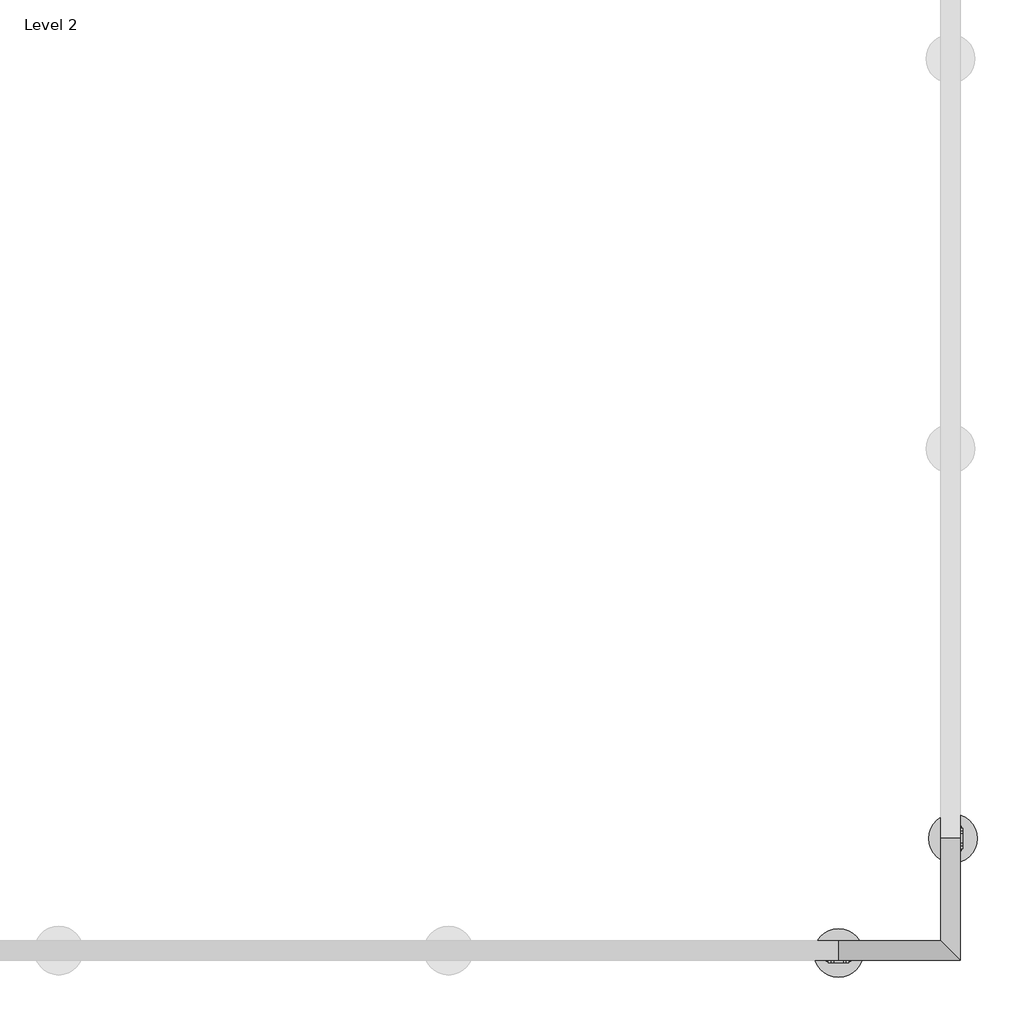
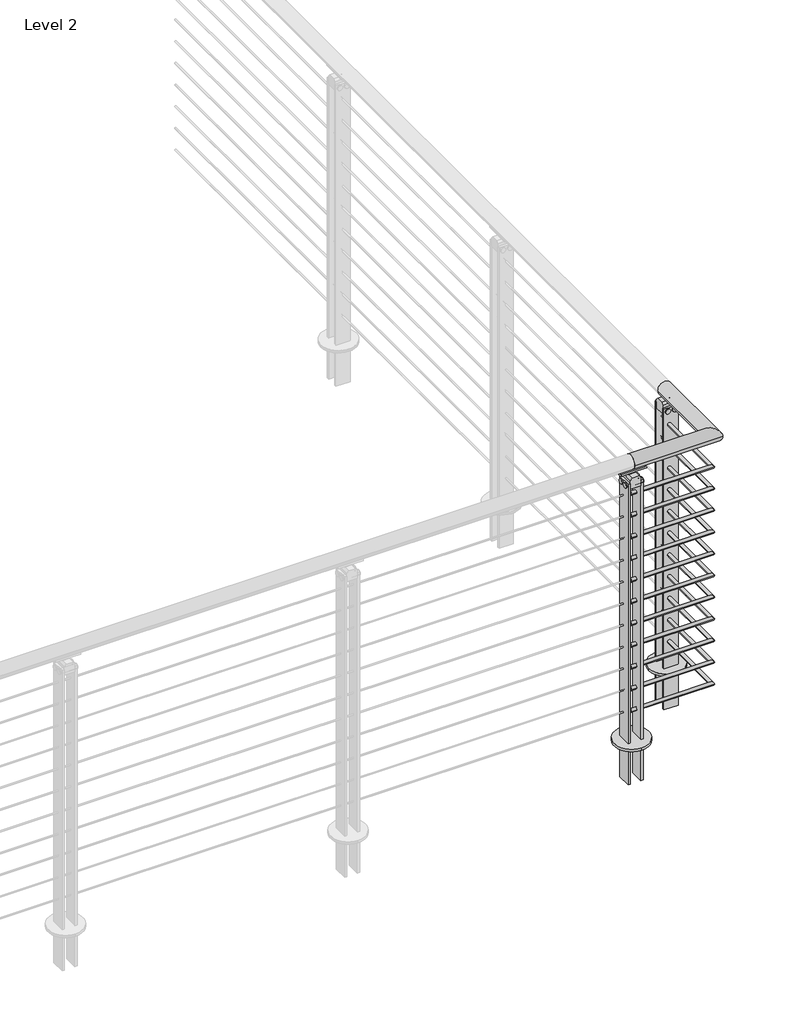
# One storey, part 30 of 31: 1 railing.
"""IFC4 building model written with IfcOpenShell, lengths in millimetres."""

from ifc_helpers import new_model, si_unit, point, frame, frame_2d, origin, place, context, project, spatial, polyline, circle_curve, ellipse_curve, trimmed, segment, composite_curve, outline, extrude, element, save
from ifc_brep_helpers import plane_surface, cylinder_surface, revolved_surface, advanced_brep

model = new_model("IFC4")

# Units and contexts
model_context = context("Model", 3, world=origin())
ifc_project = project(units=[si_unit("LENGTHUNIT", "METRE", prefix="MILLI")], contexts=[model_context])

# Site, building, storey
site = spatial("IfcSite", under=ifc_project)
building = spatial("IfcBuilding", under=site)
storey = spatial("IfcBuildingStorey", under=building, Name="Level 2", Elevation=3048.0)

# Railing
placement = place(None, origin())
element("IfcRailing", 1, ObjectType="VIVA-BLADE-Cable-Core Mount-Corner", at=placement, inside=storey, context=model_context, shape_type="SolidModel", body=[
    advanced_brep(
    [(70873.0310647, -52130.1426165, 4102.1), (70873.0310647, -52079.3426165, 4102.1), (71190.5310647, -52130.1426165, 4102.1), (71139.7310647, -52079.3426165, 4102.1), (71190.5310647, -51812.6426165, 4102.1), (71139.7310647, -51812.6426165, 4102.1)],
    [
        (0, 1, circle_curve(frame((70873.0310647, -52104.7426165, 4102.1), z_axis=(-1.0, 0.0, 0.0), x_axis=(0.0, 1.0, 0.0)), 25.4)),
        (1, 0, circle_curve(frame((70873.0310647, -52104.7426165, 4102.1), z_axis=(-1.0, 0.0, 0.0), x_axis=(0.0, 1.0, 0.0)), 25.4)),
        (0, 2),
        (2, 3, ellipse_curve(frame((71165.1310647, -52104.7426165, 4102.1), z_axis=(-0.7071067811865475, -0.7071067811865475, 0.0), x_axis=(-0.7071067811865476, 0.7071067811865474, 0.0)), 35.9210245, 25.4)),
        (3, 1),
        (3, 2, ellipse_curve(frame((71165.1310647, -52104.7426165, 4102.1), z_axis=(-0.7071067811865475, -0.7071067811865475, 0.0), x_axis=(-0.7071067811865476, 0.7071067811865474, 0.0)), 35.9210245, 25.4)),
        (4, 5, circle_curve(frame((71165.1310647, -51812.6426165, 4102.1), z_axis=(0.0, 1.0, 0.0), x_axis=(-1.0, 0.0, 0.0)), 25.4)),
        (5, 4, circle_curve(frame((71165.1310647, -51812.6426165, 4102.1), z_axis=(0.0, 1.0, 0.0), x_axis=(-1.0, 0.0, 0.0)), 25.4)),
        (2, 4),
        (5, 3),
    ],
    [
        plane_surface(frame((70873.0310647, -52104.7426165, 4127.5), z_axis=(-1.0, 0.0, 0.0), x_axis=(0.0, 1.0, 0.0))),
        cylinder_surface(frame((70873.0310647, -52104.7426165, 4102.1), z_axis=(-1.0, 0.0, 0.0), x_axis=(0.0, 1.0, 0.0)), 25.4),
        plane_surface(frame((71165.1310647, -51812.6426165, 4127.5), z_axis=(0.0, 1.0, 0.0), x_axis=(0.0, 0.0, 1.0))),
        cylinder_surface(frame((71165.1310647, -52104.7426165, 4102.1), z_axis=(0.0, -1.0, 0.0), x_axis=(-1.0, 0.0, 0.0)), 25.4),
    ],
    [
        (0, [[1, 2]]),
        (1, [[-1, 3, 4, 5]]),
        (1, [[-2, -5, 6, -3]]),
        (2, [[7, 8]]),
        (3, [[-4, 9, -8, 10]]),
        (3, [[-6, -10, -7, -9]]),
    ],
),
    advanced_brep(
    [(70873.0310647, -52098.3926165, 3981.45), (70873.0310647, -52111.0926165, 3981.45), (71158.7810647, -52098.3926165, 3981.45), (71171.4810647, -52111.0926165, 3981.45), (71158.7810647, -51812.6426165, 3981.45), (71171.4810647, -51812.6426165, 3981.45)],
    [
        (0, 1, circle_curve(frame((70873.0310647, -52104.7426165, 3981.45), z_axis=(-1.0, 0.0, 0.0), x_axis=(0.0, -1.0, 0.0)), 6.35)),
        (1, 0, circle_curve(frame((70873.0310647, -52104.7426165, 3981.45), z_axis=(-1.0, 0.0, 0.0), x_axis=(0.0, -1.0, 0.0)), 6.35)),
        (0, 2),
        (2, 3, ellipse_curve(frame((71165.1310647, -52104.7426165, 3981.45), z_axis=(-0.7071067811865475, -0.7071067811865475, 0.0), x_axis=(-0.7071067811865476, 0.7071067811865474, 0.0)), 8.9802561, 6.35)),
        (3, 1),
        (3, 2, ellipse_curve(frame((71165.1310647, -52104.7426165, 3981.45), z_axis=(-0.7071067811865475, -0.7071067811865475, 0.0), x_axis=(-0.7071067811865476, 0.7071067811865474, 0.0)), 8.9802561, 6.35)),
        (4, 5, circle_curve(frame((71165.1310647, -51812.6426165, 3981.45), z_axis=(0.0, 1.0, 0.0), x_axis=(1.0, 0.0, 0.0)), 6.35)),
        (5, 4, circle_curve(frame((71165.1310647, -51812.6426165, 3981.45), z_axis=(0.0, 1.0, 0.0), x_axis=(1.0, 0.0, 0.0)), 6.35)),
        (2, 4),
        (5, 3),
    ],
    [
        plane_surface(frame((70873.0310647, -52104.7426165, 3987.8), z_axis=(-1.0, 0.0, 0.0), x_axis=(0.0, 1.0, 0.0))),
        cylinder_surface(frame((70873.0310647, -52104.7426165, 3981.45), z_axis=(-1.0, 0.0, 0.0), x_axis=(0.0, -1.0, 0.0)), 6.35),
        plane_surface(frame((71165.1310647, -51812.6426165, 3987.8), z_axis=(0.0, 1.0, 0.0), x_axis=(0.0, 0.0, 1.0))),
        cylinder_surface(frame((71165.1310647, -52104.7426165, 3981.45), z_axis=(0.0, -1.0, 0.0), x_axis=(1.0, 0.0, 0.0)), 6.35),
    ],
    [
        (0, [[1, 2]]),
        (1, [[-1, 3, 4, 5]]),
        (1, [[-2, -5, 6, -3]]),
        (2, [[7, 8]]),
        (3, [[-4, 9, -8, 10]]),
        (3, [[-6, -10, -7, -9]]),
    ],
),
    advanced_brep(
    [(70873.0310647, -52098.3926165, 3898.9), (70873.0310647, -52111.0926165, 3898.9), (71158.7810647, -52098.3926165, 3898.9), (71171.4810647, -52111.0926165, 3898.9), (71158.7810647, -51812.6426165, 3898.9), (71171.4810647, -51812.6426165, 3898.9)],
    [
        (0, 1, circle_curve(frame((70873.0310647, -52104.7426165, 3898.9), z_axis=(-1.0, 0.0, 0.0), x_axis=(0.0, -1.0, 0.0)), 6.35)),
        (1, 0, circle_curve(frame((70873.0310647, -52104.7426165, 3898.9), z_axis=(-1.0, 0.0, 0.0), x_axis=(0.0, -1.0, 0.0)), 6.35)),
        (0, 2),
        (2, 3, ellipse_curve(frame((71165.1310647, -52104.7426165, 3898.9), z_axis=(-0.7071067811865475, -0.7071067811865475, 0.0), x_axis=(-0.7071067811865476, 0.7071067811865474, 0.0)), 8.9802561, 6.35)),
        (3, 1),
        (3, 2, ellipse_curve(frame((71165.1310647, -52104.7426165, 3898.9), z_axis=(-0.7071067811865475, -0.7071067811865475, 0.0), x_axis=(-0.7071067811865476, 0.7071067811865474, 0.0)), 8.9802561, 6.35)),
        (4, 5, circle_curve(frame((71165.1310647, -51812.6426165, 3898.9), z_axis=(0.0, 1.0, 0.0), x_axis=(1.0, 0.0, 0.0)), 6.35)),
        (5, 4, circle_curve(frame((71165.1310647, -51812.6426165, 3898.9), z_axis=(0.0, 1.0, 0.0), x_axis=(1.0, 0.0, 0.0)), 6.35)),
        (2, 4),
        (5, 3),
    ],
    [
        plane_surface(frame((70873.0310647, -52104.7426165, 3905.25), z_axis=(-1.0, 0.0, 0.0), x_axis=(0.0, 1.0, 0.0))),
        cylinder_surface(frame((70873.0310647, -52104.7426165, 3898.9), z_axis=(-1.0, 0.0, 0.0), x_axis=(0.0, -1.0, 0.0)), 6.35),
        plane_surface(frame((71165.1310647, -51812.6426165, 3905.25), z_axis=(0.0, 1.0, 0.0), x_axis=(0.0, 0.0, 1.0))),
        cylinder_surface(frame((71165.1310647, -52104.7426165, 3898.9), z_axis=(0.0, -1.0, 0.0), x_axis=(1.0, 0.0, 0.0)), 6.35),
    ],
    [
        (0, [[1, 2]]),
        (1, [[-1, 3, 4, 5]]),
        (1, [[-2, -5, 6, -3]]),
        (2, [[7, 8]]),
        (3, [[-4, 9, -8, 10]]),
        (3, [[-6, -10, -7, -9]]),
    ],
),
    advanced_brep(
    [(70873.0310647, -52098.3926165, 3816.35), (70873.0310647, -52111.0926165, 3816.35), (71158.7810647, -52098.3926165, 3816.35), (71171.4810647, -52111.0926165, 3816.35), (71158.7810647, -51812.6426165, 3816.35), (71171.4810647, -51812.6426165, 3816.35)],
    [
        (0, 1, circle_curve(frame((70873.0310647, -52104.7426165, 3816.35), z_axis=(-1.0, 0.0, 0.0), x_axis=(0.0, -1.0, 0.0)), 6.35)),
        (1, 0, circle_curve(frame((70873.0310647, -52104.7426165, 3816.35), z_axis=(-1.0, 0.0, 0.0), x_axis=(0.0, -1.0, 0.0)), 6.35)),
        (0, 2),
        (2, 3, ellipse_curve(frame((71165.1310647, -52104.7426165, 3816.35), z_axis=(-0.7071067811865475, -0.7071067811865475, 0.0), x_axis=(-0.7071067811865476, 0.7071067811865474, 0.0)), 8.9802561, 6.35)),
        (3, 1),
        (3, 2, ellipse_curve(frame((71165.1310647, -52104.7426165, 3816.35), z_axis=(-0.7071067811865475, -0.7071067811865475, 0.0), x_axis=(-0.7071067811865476, 0.7071067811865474, 0.0)), 8.9802561, 6.35)),
        (4, 5, circle_curve(frame((71165.1310647, -51812.6426165, 3816.35), z_axis=(0.0, 1.0, 0.0), x_axis=(1.0, 0.0, 0.0)), 6.35)),
        (5, 4, circle_curve(frame((71165.1310647, -51812.6426165, 3816.35), z_axis=(0.0, 1.0, 0.0), x_axis=(1.0, 0.0, 0.0)), 6.35)),
        (2, 4),
        (5, 3),
    ],
    [
        plane_surface(frame((70873.0310647, -52104.7426165, 3822.7), z_axis=(-1.0, 0.0, 0.0), x_axis=(0.0, 1.0, 0.0))),
        cylinder_surface(frame((70873.0310647, -52104.7426165, 3816.35), z_axis=(-1.0, 0.0, 0.0), x_axis=(0.0, -1.0, 0.0)), 6.35),
        plane_surface(frame((71165.1310647, -51812.6426165, 3822.7), z_axis=(0.0, 1.0, 0.0), x_axis=(0.0, 0.0, 1.0))),
        cylinder_surface(frame((71165.1310647, -52104.7426165, 3816.35), z_axis=(0.0, -1.0, 0.0), x_axis=(1.0, 0.0, 0.0)), 6.35),
    ],
    [
        (0, [[1, 2]]),
        (1, [[-1, 3, 4, 5]]),
        (1, [[-2, -5, 6, -3]]),
        (2, [[7, 8]]),
        (3, [[-4, 9, -8, 10]]),
        (3, [[-6, -10, -7, -9]]),
    ],
),
    advanced_brep(
    [(70873.0310647, -52098.3926165, 3733.8), (70873.0310647, -52111.0926165, 3733.8), (71158.7810647, -52098.3926165, 3733.8), (71171.4810647, -52111.0926165, 3733.8), (71158.7810647, -51812.6426165, 3733.8), (71171.4810647, -51812.6426165, 3733.8)],
    [
        (0, 1, circle_curve(frame((70873.0310647, -52104.7426165, 3733.8), z_axis=(-1.0, 0.0, 0.0), x_axis=(0.0, -1.0, 0.0)), 6.35)),
        (1, 0, circle_curve(frame((70873.0310647, -52104.7426165, 3733.8), z_axis=(-1.0, 0.0, 0.0), x_axis=(0.0, -1.0, 0.0)), 6.35)),
        (0, 2),
        (2, 3, ellipse_curve(frame((71165.1310647, -52104.7426165, 3733.8), z_axis=(-0.7071067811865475, -0.7071067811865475, 0.0), x_axis=(-0.7071067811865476, 0.7071067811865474, 0.0)), 8.9802561, 6.35)),
        (3, 1),
        (3, 2, ellipse_curve(frame((71165.1310647, -52104.7426165, 3733.8), z_axis=(-0.7071067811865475, -0.7071067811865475, 0.0), x_axis=(-0.7071067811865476, 0.7071067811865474, 0.0)), 8.9802561, 6.35)),
        (4, 5, circle_curve(frame((71165.1310647, -51812.6426165, 3733.8), z_axis=(0.0, 1.0, 0.0), x_axis=(1.0, 0.0, 0.0)), 6.35)),
        (5, 4, circle_curve(frame((71165.1310647, -51812.6426165, 3733.8), z_axis=(0.0, 1.0, 0.0), x_axis=(1.0, 0.0, 0.0)), 6.35)),
        (2, 4),
        (5, 3),
    ],
    [
        plane_surface(frame((70873.0310647, -52104.7426165, 3740.15), z_axis=(-1.0, 0.0, 0.0), x_axis=(0.0, 1.0, 0.0))),
        cylinder_surface(frame((70873.0310647, -52104.7426165, 3733.8), z_axis=(-1.0, 0.0, 0.0), x_axis=(0.0, -1.0, 0.0)), 6.35),
        plane_surface(frame((71165.1310647, -51812.6426165, 3740.15), z_axis=(0.0, 1.0, 0.0), x_axis=(0.0, 0.0, 1.0))),
        cylinder_surface(frame((71165.1310647, -52104.7426165, 3733.8), z_axis=(0.0, -1.0, 0.0), x_axis=(1.0, 0.0, 0.0)), 6.35),
    ],
    [
        (0, [[1, 2]]),
        (1, [[-1, 3, 4, 5]]),
        (1, [[-2, -5, 6, -3]]),
        (2, [[7, 8]]),
        (3, [[-4, 9, -8, 10]]),
        (3, [[-6, -10, -7, -9]]),
    ],
),
    advanced_brep(
    [(70873.0310647, -52098.3926165, 3651.25), (70873.0310647, -52111.0926165, 3651.25), (71158.7810647, -52098.3926165, 3651.25), (71171.4810647, -52111.0926165, 3651.25), (71158.7810647, -51812.6426165, 3651.25), (71171.4810647, -51812.6426165, 3651.25)],
    [
        (0, 1, circle_curve(frame((70873.0310647, -52104.7426165, 3651.25), z_axis=(-1.0, 0.0, 0.0), x_axis=(0.0, -1.0, 0.0)), 6.35)),
        (1, 0, circle_curve(frame((70873.0310647, -52104.7426165, 3651.25), z_axis=(-1.0, 0.0, 0.0), x_axis=(0.0, -1.0, 0.0)), 6.35)),
        (0, 2),
        (2, 3, ellipse_curve(frame((71165.1310647, -52104.7426165, 3651.25), z_axis=(-0.7071067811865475, -0.7071067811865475, 0.0), x_axis=(-0.7071067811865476, 0.7071067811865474, 0.0)), 8.9802561, 6.35)),
        (3, 1),
        (3, 2, ellipse_curve(frame((71165.1310647, -52104.7426165, 3651.25), z_axis=(-0.7071067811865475, -0.7071067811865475, 0.0), x_axis=(-0.7071067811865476, 0.7071067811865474, 0.0)), 8.9802561, 6.35)),
        (4, 5, circle_curve(frame((71165.1310647, -51812.6426165, 3651.25), z_axis=(0.0, 1.0, 0.0), x_axis=(1.0, 0.0, 0.0)), 6.35)),
        (5, 4, circle_curve(frame((71165.1310647, -51812.6426165, 3651.25), z_axis=(0.0, 1.0, 0.0), x_axis=(1.0, 0.0, 0.0)), 6.35)),
        (2, 4),
        (5, 3),
    ],
    [
        plane_surface(frame((70873.0310647, -52104.7426165, 3657.6), z_axis=(-1.0, 0.0, 0.0), x_axis=(0.0, 1.0, 0.0))),
        cylinder_surface(frame((70873.0310647, -52104.7426165, 3651.25), z_axis=(-1.0, 0.0, 0.0), x_axis=(0.0, -1.0, 0.0)), 6.35),
        plane_surface(frame((71165.1310647, -51812.6426165, 3657.6), z_axis=(0.0, 1.0, 0.0), x_axis=(0.0, 0.0, 1.0))),
        cylinder_surface(frame((71165.1310647, -52104.7426165, 3651.25), z_axis=(0.0, -1.0, 0.0), x_axis=(1.0, 0.0, 0.0)), 6.35),
    ],
    [
        (0, [[1, 2]]),
        (1, [[-1, 3, 4, 5]]),
        (1, [[-2, -5, 6, -3]]),
        (2, [[7, 8]]),
        (3, [[-4, 9, -8, 10]]),
        (3, [[-6, -10, -7, -9]]),
    ],
),
    advanced_brep(
    [(70873.0310647, -52098.3926165, 3568.7), (70873.0310647, -52111.0926165, 3568.7), (71158.7810647, -52098.3926165, 3568.7), (71171.4810647, -52111.0926165, 3568.7), (71158.7810647, -51812.6426165, 3568.7), (71171.4810647, -51812.6426165, 3568.7)],
    [
        (0, 1, circle_curve(frame((70873.0310647, -52104.7426165, 3568.7), z_axis=(-1.0, 0.0, 0.0), x_axis=(0.0, -1.0, 0.0)), 6.35)),
        (1, 0, circle_curve(frame((70873.0310647, -52104.7426165, 3568.7), z_axis=(-1.0, 0.0, 0.0), x_axis=(0.0, -1.0, 0.0)), 6.35)),
        (0, 2),
        (2, 3, ellipse_curve(frame((71165.1310647, -52104.7426165, 3568.7), z_axis=(-0.7071067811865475, -0.7071067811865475, 0.0), x_axis=(-0.7071067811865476, 0.7071067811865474, 0.0)), 8.9802561, 6.35)),
        (3, 1),
        (3, 2, ellipse_curve(frame((71165.1310647, -52104.7426165, 3568.7), z_axis=(-0.7071067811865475, -0.7071067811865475, 0.0), x_axis=(-0.7071067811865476, 0.7071067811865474, 0.0)), 8.9802561, 6.35)),
        (4, 5, circle_curve(frame((71165.1310647, -51812.6426165, 3568.7), z_axis=(0.0, 1.0, 0.0), x_axis=(1.0, 0.0, 0.0)), 6.35)),
        (5, 4, circle_curve(frame((71165.1310647, -51812.6426165, 3568.7), z_axis=(0.0, 1.0, 0.0), x_axis=(1.0, 0.0, 0.0)), 6.35)),
        (2, 4),
        (5, 3),
    ],
    [
        plane_surface(frame((70873.0310647, -52104.7426165, 3575.05), z_axis=(-1.0, 0.0, 0.0), x_axis=(0.0, 1.0, 0.0))),
        cylinder_surface(frame((70873.0310647, -52104.7426165, 3568.7), z_axis=(-1.0, 0.0, 0.0), x_axis=(0.0, -1.0, 0.0)), 6.35),
        plane_surface(frame((71165.1310647, -51812.6426165, 3575.05), z_axis=(0.0, 1.0, 0.0), x_axis=(0.0, 0.0, 1.0))),
        cylinder_surface(frame((71165.1310647, -52104.7426165, 3568.7), z_axis=(0.0, -1.0, 0.0), x_axis=(1.0, 0.0, 0.0)), 6.35),
    ],
    [
        (0, [[1, 2]]),
        (1, [[-1, 3, 4, 5]]),
        (1, [[-2, -5, 6, -3]]),
        (2, [[7, 8]]),
        (3, [[-4, 9, -8, 10]]),
        (3, [[-6, -10, -7, -9]]),
    ],
),
    advanced_brep(
    [(70873.0310647, -52098.3926165, 3486.15), (70873.0310647, -52111.0926165, 3486.15), (71158.7810647, -52098.3926165, 3486.15), (71171.4810647, -52111.0926165, 3486.15), (71158.7810647, -51812.6426165, 3486.15), (71171.4810647, -51812.6426165, 3486.15)],
    [
        (0, 1, circle_curve(frame((70873.0310647, -52104.7426165, 3486.15), z_axis=(-1.0, 0.0, 0.0), x_axis=(0.0, -1.0, 0.0)), 6.35)),
        (1, 0, circle_curve(frame((70873.0310647, -52104.7426165, 3486.15), z_axis=(-1.0, 0.0, 0.0), x_axis=(0.0, -1.0, 0.0)), 6.35)),
        (0, 2),
        (2, 3, ellipse_curve(frame((71165.1310647, -52104.7426165, 3486.15), z_axis=(-0.7071067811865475, -0.7071067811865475, 0.0), x_axis=(-0.7071067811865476, 0.7071067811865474, 0.0)), 8.9802561, 6.35)),
        (3, 1),
        (3, 2, ellipse_curve(frame((71165.1310647, -52104.7426165, 3486.15), z_axis=(-0.7071067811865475, -0.7071067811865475, 0.0), x_axis=(-0.7071067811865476, 0.7071067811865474, 0.0)), 8.9802561, 6.35)),
        (4, 5, circle_curve(frame((71165.1310647, -51812.6426165, 3486.15), z_axis=(0.0, 1.0, 0.0), x_axis=(1.0, 0.0, 0.0)), 6.35)),
        (5, 4, circle_curve(frame((71165.1310647, -51812.6426165, 3486.15), z_axis=(0.0, 1.0, 0.0), x_axis=(1.0, 0.0, 0.0)), 6.35)),
        (2, 4),
        (5, 3),
    ],
    [
        plane_surface(frame((70873.0310647, -52104.7426165, 3492.5), z_axis=(-1.0, 0.0, 0.0), x_axis=(0.0, 1.0, 0.0))),
        cylinder_surface(frame((70873.0310647, -52104.7426165, 3486.15), z_axis=(-1.0, 0.0, 0.0), x_axis=(0.0, -1.0, 0.0)), 6.35),
        plane_surface(frame((71165.1310647, -51812.6426165, 3492.5), z_axis=(0.0, 1.0, 0.0), x_axis=(0.0, 0.0, 1.0))),
        cylinder_surface(frame((71165.1310647, -52104.7426165, 3486.15), z_axis=(0.0, -1.0, 0.0), x_axis=(1.0, 0.0, 0.0)), 6.35),
    ],
    [
        (0, [[1, 2]]),
        (1, [[-1, 3, 4, 5]]),
        (1, [[-2, -5, 6, -3]]),
        (2, [[7, 8]]),
        (3, [[-4, 9, -8, 10]]),
        (3, [[-6, -10, -7, -9]]),
    ],
),
    advanced_brep(
    [(70873.0310647, -52098.3926165, 3403.6), (70873.0310647, -52111.0926165, 3403.6), (71158.7810647, -52098.3926165, 3403.6), (71171.4810647, -52111.0926165, 3403.6), (71158.7810647, -51812.6426165, 3403.6), (71171.4810647, -51812.6426165, 3403.6)],
    [
        (0, 1, circle_curve(frame((70873.0310647, -52104.7426165, 3403.6), z_axis=(-1.0, 0.0, 0.0), x_axis=(0.0, -1.0, 0.0)), 6.35)),
        (1, 0, circle_curve(frame((70873.0310647, -52104.7426165, 3403.6), z_axis=(-1.0, 0.0, 0.0), x_axis=(0.0, -1.0, 0.0)), 6.35)),
        (0, 2),
        (2, 3, ellipse_curve(frame((71165.1310647, -52104.7426165, 3403.6), z_axis=(-0.7071067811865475, -0.7071067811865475, 0.0), x_axis=(-0.7071067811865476, 0.7071067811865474, 0.0)), 8.9802561, 6.35)),
        (3, 1),
        (3, 2, ellipse_curve(frame((71165.1310647, -52104.7426165, 3403.6), z_axis=(-0.7071067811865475, -0.7071067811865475, 0.0), x_axis=(-0.7071067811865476, 0.7071067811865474, 0.0)), 8.9802561, 6.35)),
        (4, 5, circle_curve(frame((71165.1310647, -51812.6426165, 3403.6), z_axis=(0.0, 1.0, 0.0), x_axis=(1.0, 0.0, 0.0)), 6.35)),
        (5, 4, circle_curve(frame((71165.1310647, -51812.6426165, 3403.6), z_axis=(0.0, 1.0, 0.0), x_axis=(1.0, 0.0, 0.0)), 6.35)),
        (2, 4),
        (5, 3),
    ],
    [
        plane_surface(frame((70873.0310647, -52104.7426165, 3409.95), z_axis=(-1.0, 0.0, 0.0), x_axis=(0.0, 1.0, 0.0))),
        cylinder_surface(frame((70873.0310647, -52104.7426165, 3403.6), z_axis=(-1.0, 0.0, 0.0), x_axis=(0.0, -1.0, 0.0)), 6.35),
        plane_surface(frame((71165.1310647, -51812.6426165, 3409.95), z_axis=(0.0, 1.0, 0.0), x_axis=(0.0, 0.0, 1.0))),
        cylinder_surface(frame((71165.1310647, -52104.7426165, 3403.6), z_axis=(0.0, -1.0, 0.0), x_axis=(1.0, 0.0, 0.0)), 6.35),
    ],
    [
        (0, [[1, 2]]),
        (1, [[-1, 3, 4, 5]]),
        (1, [[-2, -5, 6, -3]]),
        (2, [[7, 8]]),
        (3, [[-4, 9, -8, 10]]),
        (3, [[-6, -10, -7, -9]]),
    ],
),
    advanced_brep(
    [(70873.0310647, -52098.3926165, 3321.05), (70873.0310647, -52111.0926165, 3321.05), (71158.7810647, -52098.3926165, 3321.05), (71171.4810647, -52111.0926165, 3321.05), (71158.7810647, -51812.6426165, 3321.05), (71171.4810647, -51812.6426165, 3321.05)],
    [
        (0, 1, circle_curve(frame((70873.0310647, -52104.7426165, 3321.05), z_axis=(-1.0, 0.0, 0.0), x_axis=(0.0, -1.0, 0.0)), 6.35)),
        (1, 0, circle_curve(frame((70873.0310647, -52104.7426165, 3321.05), z_axis=(-1.0, 0.0, 0.0), x_axis=(0.0, -1.0, 0.0)), 6.35)),
        (0, 2),
        (2, 3, ellipse_curve(frame((71165.1310647, -52104.7426165, 3321.05), z_axis=(-0.7071067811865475, -0.7071067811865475, 0.0), x_axis=(-0.7071067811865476, 0.7071067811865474, 0.0)), 8.9802561, 6.35)),
        (3, 1),
        (3, 2, ellipse_curve(frame((71165.1310647, -52104.7426165, 3321.05), z_axis=(-0.7071067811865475, -0.7071067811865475, 0.0), x_axis=(-0.7071067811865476, 0.7071067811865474, 0.0)), 8.9802561, 6.35)),
        (4, 5, circle_curve(frame((71165.1310647, -51812.6426165, 3321.05), z_axis=(0.0, 1.0, 0.0), x_axis=(1.0, 0.0, 0.0)), 6.35)),
        (5, 4, circle_curve(frame((71165.1310647, -51812.6426165, 3321.05), z_axis=(0.0, 1.0, 0.0), x_axis=(1.0, 0.0, 0.0)), 6.35)),
        (2, 4),
        (5, 3),
    ],
    [
        plane_surface(frame((70873.0310647, -52104.7426165, 3327.4), z_axis=(-1.0, 0.0, 0.0), x_axis=(0.0, 1.0, 0.0))),
        cylinder_surface(frame((70873.0310647, -52104.7426165, 3321.05), z_axis=(-1.0, 0.0, 0.0), x_axis=(0.0, -1.0, 0.0)), 6.35),
        plane_surface(frame((71165.1310647, -51812.6426165, 3327.4), z_axis=(0.0, 1.0, 0.0), x_axis=(0.0, 0.0, 1.0))),
        cylinder_surface(frame((71165.1310647, -52104.7426165, 3321.05), z_axis=(0.0, -1.0, 0.0), x_axis=(1.0, 0.0, 0.0)), 6.35),
    ],
    [
        (0, [[1, 2]]),
        (1, [[-1, 3, 4, 5]]),
        (1, [[-2, -5, 6, -3]]),
        (2, [[7, 8]]),
        (3, [[-4, 9, -8, 10]]),
        (3, [[-6, -10, -7, -9]]),
    ],
),
    advanced_brep(
    [(70873.0310647, -52098.3926165, 3238.5), (70873.0310647, -52111.0926165, 3238.5), (71158.7810647, -52098.3926165, 3238.5), (71171.4810647, -52111.0926165, 3238.5), (71158.7810647, -51812.6426165, 3238.5), (71171.4810647, -51812.6426165, 3238.5)],
    [
        (0, 1, circle_curve(frame((70873.0310647, -52104.7426165, 3238.5), z_axis=(-1.0, 0.0, 0.0), x_axis=(0.0, -1.0, 0.0)), 6.35)),
        (1, 0, circle_curve(frame((70873.0310647, -52104.7426165, 3238.5), z_axis=(-1.0, 0.0, 0.0), x_axis=(0.0, -1.0, 0.0)), 6.35)),
        (0, 2),
        (2, 3, ellipse_curve(frame((71165.1310647, -52104.7426165, 3238.5), z_axis=(-0.7071067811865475, -0.7071067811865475, 0.0), x_axis=(-0.7071067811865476, 0.7071067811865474, 0.0)), 8.9802561, 6.35)),
        (3, 1),
        (3, 2, ellipse_curve(frame((71165.1310647, -52104.7426165, 3238.5), z_axis=(-0.7071067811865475, -0.7071067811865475, 0.0), x_axis=(-0.7071067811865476, 0.7071067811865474, 0.0)), 8.9802561, 6.35)),
        (4, 5, circle_curve(frame((71165.1310647, -51812.6426165, 3238.5), z_axis=(0.0, 1.0, 0.0), x_axis=(1.0, 0.0, 0.0)), 6.35)),
        (5, 4, circle_curve(frame((71165.1310647, -51812.6426165, 3238.5), z_axis=(0.0, 1.0, 0.0), x_axis=(1.0, 0.0, 0.0)), 6.35)),
        (2, 4),
        (5, 3),
    ],
    [
        plane_surface(frame((70873.0310647, -52104.7426165, 3244.85), z_axis=(-1.0, 0.0, 0.0), x_axis=(0.0, 1.0, 0.0))),
        cylinder_surface(frame((70873.0310647, -52104.7426165, 3238.5), z_axis=(-1.0, 0.0, 0.0), x_axis=(0.0, -1.0, 0.0)), 6.35),
        plane_surface(frame((71165.1310647, -51812.6426165, 3244.85), z_axis=(0.0, 1.0, 0.0), x_axis=(0.0, 0.0, 1.0))),
        cylinder_surface(frame((71165.1310647, -52104.7426165, 3238.5), z_axis=(0.0, -1.0, 0.0), x_axis=(1.0, 0.0, 0.0)), 6.35),
    ],
    [
        (0, [[1, 2]]),
        (1, [[-1, 3, 4, 5]]),
        (1, [[-2, -5, 6, -3]]),
        (2, [[7, 8]]),
        (3, [[-4, 9, -8, 10]]),
        (3, [[-6, -10, -7, -9]]),
    ],
),
    advanced_brep(
    [(70873.0310647, -52098.3926165, 3155.95), (70873.0310647, -52111.0926165, 3155.95), (71158.7810647, -52098.3926165, 3155.95), (71171.4810647, -52111.0926165, 3155.95), (71158.7810647, -51812.6426165, 3155.95), (71171.4810647, -51812.6426165, 3155.95)],
    [
        (0, 1, circle_curve(frame((70873.0310647, -52104.7426165, 3155.95), z_axis=(-1.0, 0.0, 0.0), x_axis=(0.0, -1.0, 0.0)), 6.35)),
        (1, 0, circle_curve(frame((70873.0310647, -52104.7426165, 3155.95), z_axis=(-1.0, 0.0, 0.0), x_axis=(0.0, -1.0, 0.0)), 6.35)),
        (0, 2),
        (2, 3, ellipse_curve(frame((71165.1310647, -52104.7426165, 3155.95), z_axis=(-0.7071067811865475, -0.7071067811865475, 0.0), x_axis=(-0.7071067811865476, 0.7071067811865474, 0.0)), 8.9802561, 6.35)),
        (3, 1),
        (3, 2, ellipse_curve(frame((71165.1310647, -52104.7426165, 3155.95), z_axis=(-0.7071067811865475, -0.7071067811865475, 0.0), x_axis=(-0.7071067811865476, 0.7071067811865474, 0.0)), 8.9802561, 6.35)),
        (4, 5, circle_curve(frame((71165.1310647, -51812.6426165, 3155.95), z_axis=(0.0, 1.0, 0.0), x_axis=(1.0, 0.0, 0.0)), 6.35)),
        (5, 4, circle_curve(frame((71165.1310647, -51812.6426165, 3155.95), z_axis=(0.0, 1.0, 0.0), x_axis=(1.0, 0.0, 0.0)), 6.35)),
        (2, 4),
        (5, 3),
    ],
    [
        plane_surface(frame((70873.0310647, -52104.7426165, 3162.3), z_axis=(-1.0, 0.0, 0.0), x_axis=(0.0, 1.0, 0.0))),
        cylinder_surface(frame((70873.0310647, -52104.7426165, 3155.95), z_axis=(-1.0, 0.0, 0.0), x_axis=(0.0, -1.0, 0.0)), 6.35),
        plane_surface(frame((71165.1310647, -51812.6426165, 3162.3), z_axis=(0.0, 1.0, 0.0), x_axis=(0.0, 0.0, 1.0))),
        cylinder_surface(frame((71165.1310647, -52104.7426165, 3155.95), z_axis=(0.0, -1.0, 0.0), x_axis=(1.0, 0.0, 0.0)), 6.35),
    ],
    [
        (0, [[1, 2]]),
        (1, [[-1, 3, 4, 5]]),
        (1, [[-2, -5, 6, -3]]),
        (2, [[7, 8]]),
        (3, [[-4, 9, -8, 10]]),
        (3, [[-6, -10, -7, -9]]),
    ],
),
    extrude(outline(polyline([(71146.0812681, -51839.7174522), (71146.0812681, -51831.6926165), (71196.8835927, -51831.6926165), (71196.8835927, -51839.7174522), (71146.0812681, -51839.7174522)])), frame((0.0, 0.0, 2901.95), z_axis=(0.0, 0.0, 1.0), x_axis=(1.0, 0.0, 0.0)), (0.0, 0.0, 1.0), 146.05),
    extrude(outline(polyline([(71146.0812681, -51793.5926546), (71146.0812681, -51785.5916546), (71196.8835927, -51785.5916546), (71196.8835927, -51793.5926546), (71146.0812681, -51793.5926546)])), frame((0.0, 0.0, 2901.95), z_axis=(0.0, 0.0, 1.0), x_axis=(1.0, 0.0, 0.0)), (0.0, 0.0, 1.0), 146.05),
    extrude(outline(composite_curve([segment(trimmed(circle_curve(frame_2d((71171.4810647, -51812.6545534)), 63.4988059), [point((71234.9798707, -51812.6545534))], [point((71107.9822588, -51812.6545534))], False, "CARTESIAN"), True, "CONTINUOUS"), segment(trimmed(circle_curve(frame_2d((71171.4810647, -51812.6545534)), 63.4988059), [point((71107.9822588, -51812.6545534))], [point((71234.9798707, -51812.6545534))], False, "CARTESIAN"), True, "CONTINUOUS")], self_intersect=False)), frame((0.0, 0.0, 3048.0), z_axis=(0.0, 0.0, 1.0), x_axis=(1.0, 0.0, 0.0)), (0.0, 0.0, 1.0), 9.525),
    advanced_brep(
    [(71158.7209411, -51767.4052165, 4080.0967655), (71183.5930056, -51767.4052165, 4079.9535285), (71186.4019359, -51767.4052165, 4075.1267745), (71154.8850437, -51767.4052165, 4075.707533), (71158.7209411, -51857.8800165, 4080.0967655), (71154.8850437, -51857.8800165, 4075.707533), (71186.5157293, -51857.8800165, 4075.1893964), (71183.6799778, -51857.8800165, 4080.0018447)],
    [
        (0, 1, circle_curve(frame((71171.284744, -51767.4052165, 4102.2115898), z_axis=(0.0, -1.0, 0.0), x_axis=(-1.0, 0.0, 0.0)), 25.4345159)),
        (1, 2, circle_curve(frame((71184.9246309, -51767.4052165, 4077.4993599), z_axis=(0.0, 1.0, 0.0), x_axis=(-1.0, 0.0, 0.0)), 2.7949225)),
        (2, 3, circle_curve(frame((71171.1512809, -51767.4052165, 4102.9742164), z_axis=(0.0, 1.0, 0.0), x_axis=(-1.0, 0.0, 0.0)), 31.75)),
        (3, 0, circle_curve(frame((71157.1733834, -51767.4052165, 4077.5784521), z_axis=(0.0, 1.0, 0.0), x_axis=(-1.0, 0.0, 0.0)), 2.9558141)),
        (4, 5, circle_curve(frame((71157.1733834, -51857.8800165, 4077.5784521), z_axis=(0.0, -1.0, 0.0), x_axis=(-1.0, 0.0, 0.0)), 2.9558141)),
        (5, 6, circle_curve(frame((71171.1512809, -51857.8800165, 4102.9742164), z_axis=(0.0, -1.0, 0.0), x_axis=(-1.0, 0.0, 0.0)), 31.75)),
        (6, 7, circle_curve(frame((71184.9246309, -51857.8800165, 4077.4993599), z_axis=(0.0, -1.0, 0.0), x_axis=(-1.0, 0.0, 0.0)), 2.7949225)),
        (7, 4, circle_curve(frame((71171.284744, -51857.8800165, 4102.2115898), z_axis=(0.0, 1.0, 0.0), x_axis=(-1.0, 0.0, 0.0)), 25.4345159)),
        (0, 4),
        (7, 1),
        (6, 2),
        (5, 3),
    ],
    [
        plane_surface(frame((71145.8502281, -51767.4052165, 4102.2115898), z_axis=(0.0, 1.0, 0.0), x_axis=(0.0, 0.0, -1.0))),
        plane_surface(frame((71145.8502281, -51857.8800165, 4102.2115898), z_axis=(0.0, -1.0, 0.0), x_axis=(0.0, 0.0, 1.0))),
        revolved_surface(polyline([(71145.85022810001, -51857.8800165, 4102.2115898), (71145.85022810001, -51767.4052165, 4102.2115898)]), (71171.284744, -51857.8800165, 4102.2115898), (0.0, -1.0, 0.0)),
        cylinder_surface(frame((71184.9246309, -51857.8800165, 4077.4993599), z_axis=(0.0, 1.0, 0.0), x_axis=(-1.0, 0.0, 0.0)), 2.7949225),
        cylinder_surface(frame((71171.1512809, -51857.8800165, 4102.9742164), z_axis=(0.0, 1.0, 0.0), x_axis=(-1.0, 0.0, 0.0)), 31.75),
        cylinder_surface(frame((71157.1733834, -51857.8800165, 4077.5784521), z_axis=(0.0, 1.0, 0.0), x_axis=(-1.0, 0.0, 0.0)), 2.9558141),
    ],
    [
        (0, [[1, 2, 3, 4]]),
        (1, [[5, 6, 7, 8]]),
        (2, [[-1, 9, -8, 10]]),
        (3, [[-2, -10, -7, 11]]),
        (4, [[-3, -11, -6, 12]]),
        (5, [[-4, -12, -5, -9]]),
    ],
),
    extrude(outline(composite_curve([segment(polyline([(-51799.9426165, 4062.4125), (-51825.3426165, 4062.4125)]), True, "CONTINUOUS"), segment(trimmed(circle_curve(frame_2d((-51839.7105314, 4062.4125)), 14.3679149), [point((-51825.3426165, 4062.4125))], [point((-51839.7105314, 4076.7804149))], True, "CARTESIAN"), True, "CONTINUOUS"), segment(polyline([(-51839.7105314, 4076.7804149), (-51785.5747017, 4076.7804149)]), True, "CONTINUOUS"), segment(trimmed(circle_curve(frame_2d((-51785.5747017, 4062.4125)), 14.3679149), [point((-51785.5747017, 4076.7804149))], [point((-51799.9426165, 4062.4125))], True, "CARTESIAN"), True, "CONTINUOUS")], self_intersect=False)), frame((71168.9410647, 0.0, 0.0), z_axis=(1.0, 0.0, 0.0), x_axis=(0.0, 1.0, 0.0)), (0.0, 0.0, 1.0), 5.08),
    extrude(outline(polyline([(71146.0812681, -51839.7174522), (71146.0812681, -51831.6926165), (71196.8835927, -51831.6926165), (71196.8835927, -51839.7174522), (71146.0812681, -51839.7174522)])), frame((0.0, 0.0, 3048.0), z_axis=(0.0, 0.0, 1.0), x_axis=(1.0, 0.0, 0.0)), (0.0, 0.0, 1.0), 996.95),
    extrude(outline(composite_curve([segment(trimmed(circle_curve(frame_2d((4034.0416929, 71184.1835417)), 8.89), [point((4034.0416929, 71193.0735417))], [point((4034.0416929, 71175.2935417))], False, "CARTESIAN"), True, "CONTINUOUS"), segment(trimmed(circle_curve(frame_2d((4034.0416929, 71184.1835417)), 8.89), [point((4034.0416929, 71175.2935417))], [point((4034.0416929, 71193.0735417))], False, "CARTESIAN"), True, "CONTINUOUS")], self_intersect=False)), frame((0.0, -51844.3926165, 0.0), z_axis=(0.0, 1.0, 0.0), x_axis=(0.0, 0.0, 1.0)), (0.0, 0.0, 1.0), 63.4880631),
    extrude(outline(composite_curve([segment(trimmed(circle_curve(frame_2d((4034.0416929, 71158.7836437)), 8.89), [point((4034.0416929, 71167.6736437))], [point((4034.0416929, 71149.8936437))], False, "CARTESIAN"), True, "CONTINUOUS"), segment(trimmed(circle_curve(frame_2d((4034.0416929, 71158.7836437)), 8.89), [point((4034.0416929, 71149.8936437))], [point((4034.0416929, 71167.6736437))], False, "CARTESIAN"), True, "CONTINUOUS")], self_intersect=False)), frame((0.0, -51844.3926165, 0.0), z_axis=(0.0, 1.0, 0.0), x_axis=(0.0, 0.0, 1.0)), (0.0, 0.0, 1.0), 63.4880631),
    extrude(outline(polyline([(-51831.6926165, 4022.7123), (-51831.6926165, 4056.0625), (-51825.3426165, 4062.4125), (-51799.9426165, 4062.4125), (-51793.5926165, 4056.0625), (-51793.5926165, 4022.7123), (-51831.6926165, 4022.7123)])), frame((71146.0810647, 0.0, 0.0), z_axis=(1.0, 0.0, 0.0), x_axis=(0.0, 1.0, 0.0)), (0.0, 0.0, 1.0), 50.8025279),
    extrude(outline(polyline([(71146.0812681, -51793.5926546), (71146.0812681, -51785.5916546), (71196.8835927, -51785.5916546), (71196.8835927, -51793.5926546), (71146.0812681, -51793.5926546)])), frame((0.0, 0.0, 3048.0), z_axis=(0.0, 0.0, 1.0), x_axis=(1.0, 0.0, 0.0)), (0.0, 0.0, 1.0), 996.95),
    extrude(outline(polyline([(70845.956229, -52085.6928199), (70853.9810647, -52085.6928199), (70853.9810647, -52136.4951445), (70845.956229, -52136.4951445), (70845.956229, -52085.6928199)])), frame((0.0, 0.0, 2901.95), z_axis=(0.0, 0.0, 1.0), x_axis=(1.0, 0.0, 0.0)), (0.0, 0.0, 1.0), 146.05),
    extrude(outline(polyline([(70892.0810267, -52085.6928199), (70900.0820267, -52085.6928199), (70900.0820267, -52136.4951445), (70892.0810267, -52136.4951445), (70892.0810267, -52085.6928199)])), frame((0.0, 0.0, 2901.95), z_axis=(0.0, 0.0, 1.0), x_axis=(1.0, 0.0, 0.0)), (0.0, 0.0, 1.0), 146.05),
    extrude(outline(composite_curve([segment(trimmed(circle_curve(frame_2d((70873.0191279, -52111.0926165)), 63.4988059), [point((70873.0191279, -52174.5914225))], [point((70873.0191279, -52047.5938106))], False, "CARTESIAN"), True, "CONTINUOUS"), segment(trimmed(circle_curve(frame_2d((70873.0191279, -52111.0926165)), 63.4988059), [point((70873.0191279, -52047.5938106))], [point((70873.0191279, -52174.5914225))], False, "CARTESIAN"), True, "CONTINUOUS")], self_intersect=False)), frame((0.0, 0.0, 3048.0), z_axis=(0.0, 0.0, 1.0), x_axis=(1.0, 0.0, 0.0)), (0.0, 0.0, 1.0), 9.525),
    advanced_brep(
    [(70918.2684647, -52098.3324929, 4080.0967655), (70918.2684647, -52123.2045574, 4079.9535285), (70918.2684647, -52126.0134877, 4075.1267745), (70918.2684647, -52094.4965955, 4075.707533), (70827.7936647, -52098.3324929, 4080.0967655), (70827.7936647, -52094.4965955, 4075.707533), (70827.7936647, -52126.1272811, 4075.1893964), (70827.7936647, -52123.2915296, 4080.0018447)],
    [
        (0, 1, circle_curve(frame((70918.2684647, -52110.8962958, 4102.2115898), z_axis=(-1.0, 0.0, 0.0), x_axis=(0.0, 1.0, 0.0)), 25.4345159)),
        (1, 2, circle_curve(frame((70918.2684647, -52124.5361827, 4077.4993599), z_axis=(1.0, 0.0, 0.0), x_axis=(0.0, 1.0, 0.0)), 2.7949225)),
        (2, 3, circle_curve(frame((70918.2684647, -52110.7628327, 4102.9742164), z_axis=(1.0, 0.0, 0.0), x_axis=(0.0, 1.0, 0.0)), 31.75)),
        (3, 0, circle_curve(frame((70918.2684647, -52096.7849352, 4077.5784521), z_axis=(1.0, 0.0, 0.0), x_axis=(0.0, 1.0, 0.0)), 2.9558141)),
        (4, 5, circle_curve(frame((70827.7936647, -52096.7849352, 4077.5784521), z_axis=(-1.0, 0.0, 0.0), x_axis=(0.0, 1.0, 0.0)), 2.9558141)),
        (5, 6, circle_curve(frame((70827.7936647, -52110.7628327, 4102.9742164), z_axis=(-1.0, 0.0, 0.0), x_axis=(0.0, 1.0, 0.0)), 31.75)),
        (6, 7, circle_curve(frame((70827.7936647, -52124.5361827, 4077.4993599), z_axis=(-1.0, 0.0, 0.0), x_axis=(0.0, 1.0, 0.0)), 2.7949225)),
        (7, 4, circle_curve(frame((70827.7936647, -52110.8962958, 4102.2115898), z_axis=(1.0, 0.0, 0.0), x_axis=(0.0, 1.0, 0.0)), 25.4345159)),
        (0, 4),
        (7, 1),
        (6, 2),
        (5, 3),
    ],
    [
        plane_surface(frame((70918.2684647, -52085.4617799, 4102.2115898), z_axis=(1.0, 0.0, 0.0), x_axis=(0.0, 0.0, -1.0))),
        plane_surface(frame((70827.7936647, -52085.4617799, 4102.2115898), z_axis=(-1.0, 0.0, 0.0), x_axis=(0.0, 0.0, 1.0))),
        revolved_surface(polyline([(70827.7936647, -52085.4617799, 4102.2115898), (70918.2684647, -52085.4617799, 4102.2115898)]), (70827.7936647, -52110.8962958, 4102.2115898), (-1.0, 0.0, 0.0)),
        cylinder_surface(frame((70827.7936647, -52124.5361827, 4077.4993599), z_axis=(1.0, 0.0, 0.0), x_axis=(0.0, 1.0, 0.0)), 2.7949225),
        cylinder_surface(frame((70827.7936647, -52110.7628327, 4102.9742164), z_axis=(1.0, 0.0, 0.0), x_axis=(0.0, 1.0, 0.0)), 31.75),
        cylinder_surface(frame((70827.7936647, -52096.7849352, 4077.5784521), z_axis=(1.0, 0.0, 0.0), x_axis=(0.0, 1.0, 0.0)), 2.9558141),
    ],
    [
        (0, [[1, 2, 3, 4]]),
        (1, [[5, 6, 7, 8]]),
        (2, [[-1, 9, -8, 10]]),
        (3, [[-2, -10, -7, 11]]),
        (4, [[-3, -11, -6, 12]]),
        (5, [[-4, -12, -5, -9]]),
    ],
),
    extrude(outline(composite_curve([segment(trimmed(circle_curve(frame_2d((4062.4125, 70900.0989796)), 14.3679149), [point((4062.4125, 70885.7310647))], [point((4076.7804149, 70900.0989796))], True, "CARTESIAN"), True, "CONTINUOUS"), segment(polyline([(4076.7804149, 70900.0989796), (4076.7804149, 70845.9631499)]), True, "CONTINUOUS"), segment(trimmed(circle_curve(frame_2d((4062.4125, 70845.9631499)), 14.3679149), [point((4076.7804149, 70845.9631499))], [point((4062.4125, 70860.3310647))], True, "CARTESIAN"), True, "CONTINUOUS"), segment(polyline([(4062.4125, 70860.3310647), (4062.4125, 70885.7310647)]), True, "CONTINUOUS")], self_intersect=False)), frame((0.0, -52113.6326165, 0.0), z_axis=(0.0, 1.0, 0.0), x_axis=(0.0, 0.0, 1.0)), (0.0, 0.0, 1.0), 5.08),
    extrude(outline(polyline([(70845.956229, -52085.6928199), (70853.9810647, -52085.6928199), (70853.9810647, -52136.4951445), (70845.956229, -52136.4951445), (70845.956229, -52085.6928199)])), frame((0.0, 0.0, 3048.0), z_axis=(0.0, 0.0, 1.0), x_axis=(1.0, 0.0, 0.0)), (0.0, 0.0, 1.0), 996.95),
    extrude(outline(composite_curve([segment(trimmed(circle_curve(frame_2d((-52123.7950935, 4034.0416929)), 8.89), [point((-52132.6850935, 4034.0416929))], [point((-52114.9050935, 4034.0416929))], False, "CARTESIAN"), True, "CONTINUOUS"), segment(trimmed(circle_curve(frame_2d((-52123.7950935, 4034.0416929)), 8.89), [point((-52114.9050935, 4034.0416929))], [point((-52132.6850935, 4034.0416929))], False, "CARTESIAN"), True, "CONTINUOUS")], self_intersect=False)), frame((70841.2810647, 0.0, 0.0), z_axis=(1.0, 0.0, 0.0), x_axis=(0.0, 1.0, 0.0)), (0.0, 0.0, 1.0), 63.4880631),
    extrude(outline(composite_curve([segment(trimmed(circle_curve(frame_2d((-52098.3951955, 4034.0416929)), 8.89), [point((-52107.2851955, 4034.0416929))], [point((-52089.5051955, 4034.0416929))], False, "CARTESIAN"), True, "CONTINUOUS"), segment(trimmed(circle_curve(frame_2d((-52098.3951955, 4034.0416929)), 8.89), [point((-52089.5051955, 4034.0416929))], [point((-52107.2851955, 4034.0416929))], False, "CARTESIAN"), True, "CONTINUOUS")], self_intersect=False)), frame((70841.2810647, 0.0, 0.0), z_axis=(1.0, 0.0, 0.0), x_axis=(0.0, 1.0, 0.0)), (0.0, 0.0, 1.0), 63.4880631),
    extrude(outline(polyline([(4022.7123, 70853.9810647), (4022.7123, 70892.0810647), (4056.0625, 70892.0810647), (4062.4125, 70885.7310647), (4062.4125, 70860.3310647), (4056.0625, 70853.9810647), (4022.7123, 70853.9810647)])), frame((0.0, -52136.4951445, 0.0), z_axis=(0.0, 1.0, 0.0), x_axis=(0.0, 0.0, 1.0)), (0.0, 0.0, 1.0), 50.8025279),
    extrude(outline(polyline([(70892.0810267, -52085.6928199), (70900.0820267, -52085.6928199), (70900.0820267, -52136.4951445), (70892.0810267, -52136.4951445), (70892.0810267, -52085.6928199)])), frame((0.0, 0.0, 3048.0), z_axis=(0.0, 0.0, 1.0), x_axis=(1.0, 0.0, 0.0)), (0.0, 0.0, 1.0), 996.95),
])

save(model, "model.ifc")
